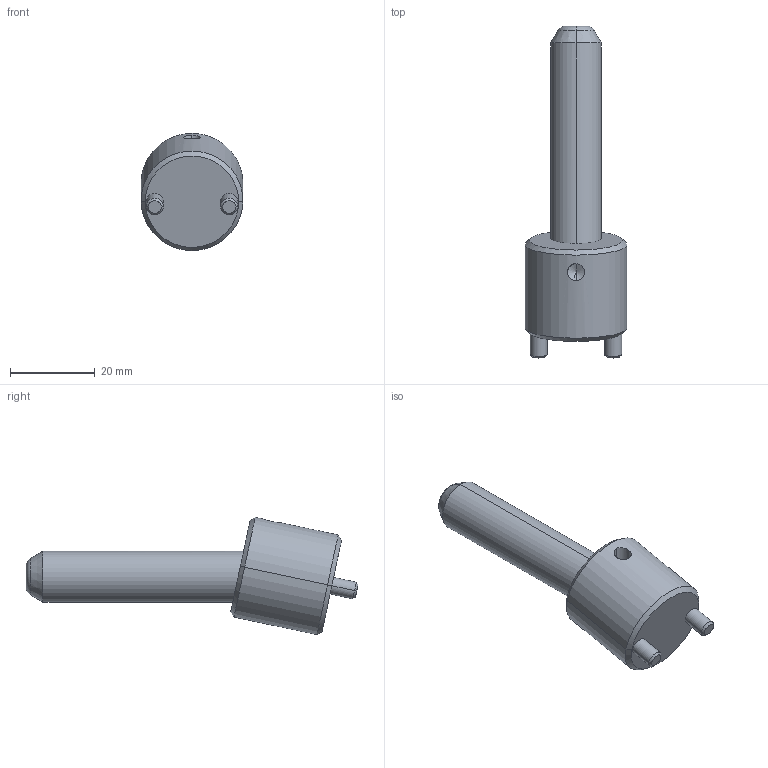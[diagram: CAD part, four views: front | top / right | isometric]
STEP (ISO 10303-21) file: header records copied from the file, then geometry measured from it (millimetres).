
FILE_DESCRIPTION(('CATIA V5 STEP Exchange'),'2;1');
FILE_NAME('C:\Users\Raffaele\Desktop\3D BOLEX\3D FILES CF BOLEX\19-INCLINED ASSEMBLY REF_CI\CI1212050.stp','2019-06-20T14:04:02+00:00',('none'),('none'),'CATIA Version 5 Release 20 GA (IN-10)','CATIA V5 STEP AP203','none');
FILE_SCHEMA(('CONFIG_CONTROL_DESIGN'));
Length unit declared in the file: millimetre
Products named in the file (1): CI1212050
Assembly tree (2 placements, depth 2):
  CI1212050
    #58
    #560
Bounding box: 24 x 78.22 x 27.63 mm (x, y, z)
Volume: 15365.6 mm3; surface area: 6084.7 mm2
Topology: 2 solids, 2 shells, 39 faces, 82 edges, 47 vertices
Faces by surface type: cone 14, cylinder 14, plane 7, torus 4
Entity records: 1449 total; most frequent: CARTESIAN_POINT 590, ORIENTED_EDGE 160, DIRECTION 145, EDGE_CURVE 80, AXIS2_PLACEMENT_3D 72, VERTEX_POINT 47, EDGE_LOOP 43, ADVANCED_FACE 39
